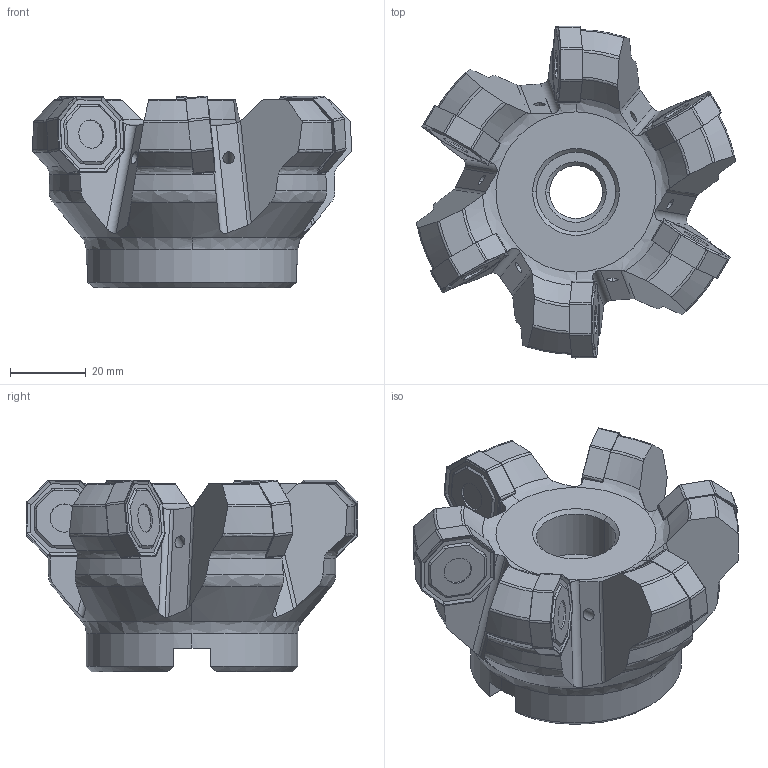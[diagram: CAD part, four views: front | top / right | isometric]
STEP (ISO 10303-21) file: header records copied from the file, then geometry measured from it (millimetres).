
FILE_DESCRIPTION (( 'STEP AP214' ), '1' );
FILE_NAME ('01-0606.STEP', '2022-08-16T22:42:07', ( '' ), ( '' ), 'SwSTEP 2.0', 'SolidWorks 2021', '' );
FILE_SCHEMA (( 'AUTOMOTIVE_DESIGN' ));
Length unit declared in the file: inch
Products named in the file (1): 01-0606
Bounding box: 84.43 x 87.86 x 50.8 mm (x, y, z)
Volume: 130954.7 mm3; surface area: 24607.1 mm2
Topology: 1 solids, 1 shells, 623 faces, 1873 edges, 1196 vertices
Faces by surface type: plane 258, cone 187, cylinder 123, bspline 55
Entity records: 22250 total; most frequent: CARTESIAN_POINT 6538, ORIENTED_EDGE 3606, DIRECTION 2945, EDGE_CURVE 1803, VERTEX_POINT 1196, AXIS2_PLACEMENT_3D 1051, VECTOR 843, LINE 843
